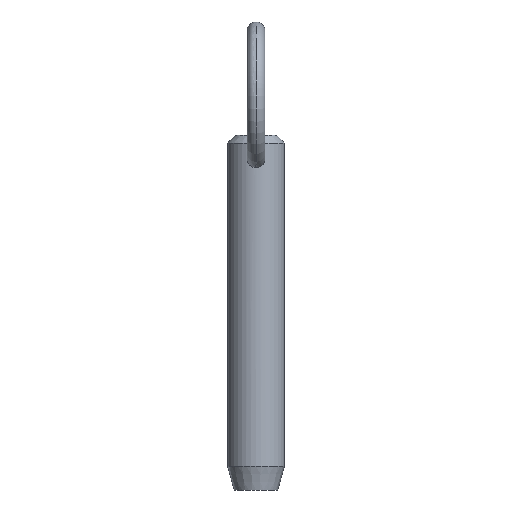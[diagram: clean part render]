
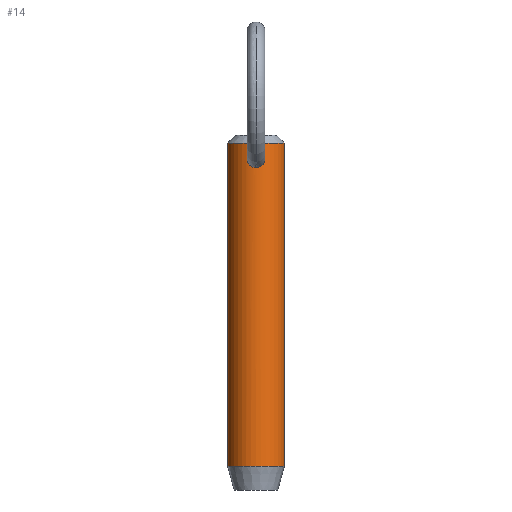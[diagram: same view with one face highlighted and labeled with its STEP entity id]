
A CAD part, front view. The second image highlights one B-rep face of the part: STEP entity #14.
In plain terms, the highlighted cylindrical face has radius 4.76 mm (diameter 9.52 mm), a partial arc.
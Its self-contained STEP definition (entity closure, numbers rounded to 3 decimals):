
#1 = CARTESIAN_POINT ( 'NONE',  ( -1.292, -4.582, 43.945 ) ) ;
#2 = CARTESIAN_POINT ( 'NONE',  ( -0.703, -4.709, 41.689 ) ) ;
#9 = CARTESIAN_POINT ( 'NONE',  ( -0.777, -4.7, 44.585 ) ) ;
#10 = CARTESIAN_POINT ( 'NONE',  ( 4.76, 0., 40.6 ) ) ;
#14 = ADVANCED_FACE ( 'NONE', ( #72, #484 ), #296, .T. ) ;
#18 = CARTESIAN_POINT ( 'NONE',  ( 1.293, -4.582, 43.942 ) ) ;
#22 = CARTESIAN_POINT ( 'NONE',  ( 0., 0., 40.6 ) ) ;
#35 = CARTESIAN_POINT ( 'NONE',  ( -1.508, -4.515, 42.937 ) ) ;
#39 = ORIENTED_EDGE ( 'NONE', *, *, #519, .T. ) ;
#40 = B_SPLINE_CURVE_WITH_KNOTS ( 'NONE', 3,
 ( #385, #303, #57, #510, #52, #427, #90, #379, #163, #345, #18, #209, #387, #467, #48, #339, #128, #433, #124, #461, #463, #210, #504, #68, #267, #354, #352, #265, #60, #91 ),
 .UNSPECIFIED., .F., .F.,
 ( 4, 2, 2, 2, 2, 2, 2, 2, 2, 2, 2, 2, 2, 2, 4 ),
 ( 0.004, 0.005, 0.005, 0.005, 0.006, 0.006, 0.007, 0.007, 0.007, 0.007, 0.008, 0.008, 0.009, 0.009, 0.009 ),
 .UNSPECIFIED. ) ;
#48 = CARTESIAN_POINT ( 'NONE',  ( 1.492, -4.52, 43.248 ) ) ;
#49 = LINE ( 'NONE', #10, #164 ) ;
#52 = CARTESIAN_POINT ( 'NONE',  ( 0.506, -4.734, 44.737 ) ) ;
#57 = CARTESIAN_POINT ( 'NONE',  ( 0.209, -4.756, 44.834 ) ) ;
#58 = ORIENTED_EDGE ( 'NONE', *, *, #306, .T. ) ;
#60 = CARTESIAN_POINT ( 'NONE',  ( 0.105, -4.76, 41.526 ) ) ;
#64 = LINE ( 'NONE', #260, #204 ) ;
#68 = CARTESIAN_POINT ( 'NONE',  ( 0.97, -4.662, 41.85 ) ) ;
#72 = FACE_OUTER_BOUND ( 'NONE', #154, .T. ) ;
#73 = CARTESIAN_POINT ( 'NONE',  ( 0., 0., 45.65 ) ) ;
#85 = CARTESIAN_POINT ( 'NONE',  ( -0.409, -4.743, 44.778 ) ) ;
#90 = CARTESIAN_POINT ( 'NONE',  ( 0.77, -4.698, 44.575 ) ) ;
#91 = CARTESIAN_POINT ( 'NONE',  ( 0., -4.76, 41.526 ) ) ;
#95 = DIRECTION ( 'NONE',  ( 0., 0., -1. ) ) ;
#96 = AXIS2_PLACEMENT_3D ( 'NONE', #73, #358, #142 ) ;
#99 = CARTESIAN_POINT ( 'NONE',  ( 0., -4.76, 41.526 ) ) ;
#109 = CARTESIAN_POINT ( 'NONE',  ( -1.487, -4.522, 43.353 ) ) ;
#111 = CARTESIAN_POINT ( 'NONE',  ( -0.932, -4.67, 44.445 ) ) ;
#114 = ORIENTED_EDGE ( 'NONE', *, *, #187, .T. ) ;
#116 = CARTESIAN_POINT ( 'NONE',  ( -0.504, -4.734, 44.738 ) ) ;
#124 = CARTESIAN_POINT ( 'NONE',  ( 1.45, -4.534, 42.628 ) ) ;
#127 = DIRECTION ( 'NONE',  ( -1., 0., 0. ) ) ;
#128 = CARTESIAN_POINT ( 'NONE',  ( 1.499, -4.518, 42.937 ) ) ;
#131 = ORIENTED_EDGE ( 'NONE', *, *, #217, .F. ) ;
#141 = B_SPLINE_CURVE_WITH_KNOTS ( 'NONE', 3,
 ( #99, #523, #482, #2, #327, #450, #330, #487, #147, #364, #35, #109, #235, #1, #366, #111, #9, #116, #85, #160, #155, #458 ),
 .UNSPECIFIED., .F., .F.,
 ( 4, 2, 2, 2, 2, 2, 2, 2, 2, 2, 4 ),
 ( 0.009, 0.01, 0.01, 0.011, 0.011, 0.012, 0.012, 0.013, 0.014, 0.014, 0.014 ),
 .UNSPECIFIED. ) ;
#142 = DIRECTION ( 'NONE',  ( 1., 0., 0. ) ) ;
#147 = CARTESIAN_POINT ( 'NONE',  ( -1.353, -4.564, 42.335 ) ) ;
#154 = EDGE_LOOP ( 'NONE', ( #131, #165, #425, #39 ) ) ;
#155 = CARTESIAN_POINT ( 'NONE',  ( -0.103, -4.76, 44.848 ) ) ;
#160 = CARTESIAN_POINT ( 'NONE',  ( -0.208, -4.757, 44.834 ) ) ;
#163 = CARTESIAN_POINT ( 'NONE',  ( 0.997, -4.655, 44.364 ) ) ;
#164 = VECTOR ( 'NONE', #333, 1000. ) ;
#165 = ORIENTED_EDGE ( 'NONE', *, *, #491, .T. ) ;
#171 = VERTEX_POINT ( 'NONE', #185 ) ;
#174 = CARTESIAN_POINT ( 'NONE',  ( 0., -4.76, 44.848 ) ) ;
#185 = CARTESIAN_POINT ( 'NONE',  ( 0., -4.76, 41.526 ) ) ;
#187 = EDGE_CURVE ( 'NONE', #171, #383, #141, .T. ) ;
#188 = VERTEX_POINT ( 'NONE', #422 ) ;
#198 = EDGE_LOOP ( 'NONE', ( #58, #114 ) ) ;
#204 = VECTOR ( 'NONE', #95, 1000. ) ;
#209 = CARTESIAN_POINT ( 'NONE',  ( 1.404, -4.548, 43.653 ) ) ;
#210 = CARTESIAN_POINT ( 'NONE',  ( 1.24, -4.596, 42.16 ) ) ;
#217 = EDGE_CURVE ( 'NONE', #362, #495, #49, .T. ) ;
#230 = DIRECTION ( 'NONE',  ( -1., 0., 0. ) ) ;
#235 = CARTESIAN_POINT ( 'NONE',  ( -1.441, -4.537, 43.557 ) ) ;
#243 = AXIS2_PLACEMENT_3D ( 'NONE', #22, #466, #127 ) ;
#256 = VERTEX_POINT ( 'NONE', #257 ) ;
#257 = CARTESIAN_POINT ( 'NONE',  ( -4.76, 0., -8.7 ) ) ;
#260 = CARTESIAN_POINT ( 'NONE',  ( -4.76, 0., 40.6 ) ) ;
#265 = CARTESIAN_POINT ( 'NONE',  ( 0.208, -4.757, 41.536 ) ) ;
#267 = CARTESIAN_POINT ( 'NONE',  ( 0.797, -4.697, 41.729 ) ) ;
#268 = AXIS2_PLACEMENT_3D ( 'NONE', #486, #407, #230 ) ;
#276 = CARTESIAN_POINT ( 'NONE',  ( 4.76, 0., -8.7 ) ) ;
#296 = CYLINDRICAL_SURFACE ( 'NONE', #243, 4.76 ) ;
#303 = CARTESIAN_POINT ( 'NONE',  ( 0.104, -4.76, 44.848 ) ) ;
#306 = EDGE_CURVE ( 'NONE', #383, #171, #40, .T. ) ;
#327 = CARTESIAN_POINT ( 'NONE',  ( -0.793, -4.694, 41.739 ) ) ;
#330 = CARTESIAN_POINT ( 'NONE',  ( -1.039, -4.646, 41.926 ) ) ;
#333 = DIRECTION ( 'NONE',  ( 0., 0., -1. ) ) ;
#339 = CARTESIAN_POINT ( 'NONE',  ( 1.503, -4.517, 43.04 ) ) ;
#345 = CARTESIAN_POINT ( 'NONE',  ( 1.19, -4.611, 44.124 ) ) ;
#351 = CARTESIAN_POINT ( 'NONE',  ( 4.76, 0., 45.65 ) ) ;
#352 = CARTESIAN_POINT ( 'NONE',  ( 0.411, -4.743, 41.577 ) ) ;
#354 = CARTESIAN_POINT ( 'NONE',  ( 0.512, -4.733, 41.608 ) ) ;
#357 = EDGE_CURVE ( 'NONE', #188, #256, #64, .T. ) ;
#358 = DIRECTION ( 'NONE',  ( 0., 0., -1. ) ) ;
#362 = VERTEX_POINT ( 'NONE', #351 ) ;
#364 = CARTESIAN_POINT ( 'NONE',  ( -1.483, -4.524, 42.726 ) ) ;
#366 = CARTESIAN_POINT ( 'NONE',  ( -1.19, -4.611, 44.124 ) ) ;
#368 = CIRCLE ( 'NONE', #96, 4.76 ) ;
#379 = CARTESIAN_POINT ( 'NONE',  ( 0.925, -4.67, 44.439 ) ) ;
#383 = VERTEX_POINT ( 'NONE', #174 ) ;
#385 = CARTESIAN_POINT ( 'NONE',  ( 0., -4.76, 44.848 ) ) ;
#387 = CARTESIAN_POINT ( 'NONE',  ( 1.434, -4.539, 43.554 ) ) ;
#407 = DIRECTION ( 'NONE',  ( 0., 0., 1. ) ) ;
#422 = CARTESIAN_POINT ( 'NONE',  ( -4.76, 0., 45.65 ) ) ;
#425 = ORIENTED_EDGE ( 'NONE', *, *, #357, .T. ) ;
#427 = CARTESIAN_POINT ( 'NONE',  ( 0.687, -4.711, 44.635 ) ) ;
#429 = CIRCLE ( 'NONE', #268, 4.76 ) ;
#433 = CARTESIAN_POINT ( 'NONE',  ( 1.473, -4.526, 42.731 ) ) ;
#450 = CARTESIAN_POINT ( 'NONE',  ( -0.961, -4.663, 41.857 ) ) ;
#458 = CARTESIAN_POINT ( 'NONE',  ( 0., -4.76, 44.848 ) ) ;
#461 = CARTESIAN_POINT ( 'NONE',  ( 1.385, -4.554, 42.432 ) ) ;
#463 = CARTESIAN_POINT ( 'NONE',  ( 1.344, -4.567, 42.339 ) ) ;
#466 = DIRECTION ( 'NONE',  ( 0., 0., -1. ) ) ;
#467 = CARTESIAN_POINT ( 'NONE',  ( 1.478, -4.525, 43.352 ) ) ;
#482 = CARTESIAN_POINT ( 'NONE',  ( -0.416, -4.746, 41.567 ) ) ;
#484 = FACE_BOUND ( 'NONE', #198, .T. ) ;
#486 = CARTESIAN_POINT ( 'NONE',  ( 0., 0., -8.7 ) ) ;
#487 = CARTESIAN_POINT ( 'NONE',  ( -1.247, -4.596, 42.152 ) ) ;
#491 = EDGE_CURVE ( 'NONE', #362, #188, #368, .T. ) ;
#495 = VERTEX_POINT ( 'NONE', #276 ) ;
#504 = CARTESIAN_POINT ( 'NONE',  ( 1.178, -4.613, 42.076 ) ) ;
#510 = CARTESIAN_POINT ( 'NONE',  ( 0.409, -4.743, 44.778 ) ) ;
#519 = EDGE_CURVE ( 'NONE', #256, #495, #429, .T. ) ;
#523 = CARTESIAN_POINT ( 'NONE',  ( -0.21, -4.76, 41.526 ) ) ;
